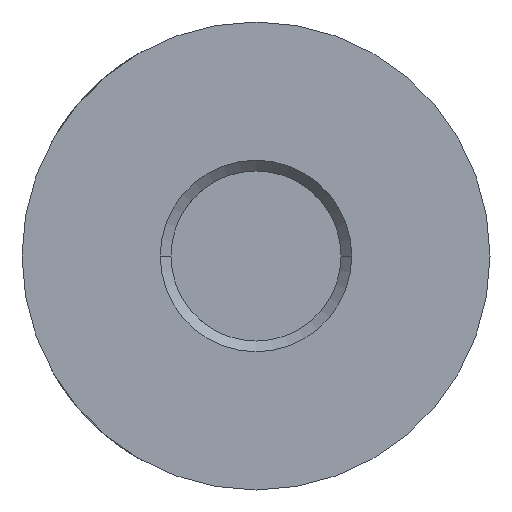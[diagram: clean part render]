
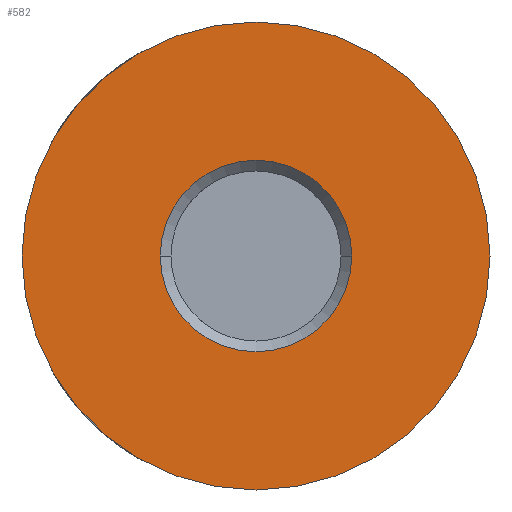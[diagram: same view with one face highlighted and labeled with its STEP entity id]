
A CAD part, front view. The second image highlights one B-rep face of the part: STEP entity #582.
In plain terms, the highlighted planar face has unit normal (0, -1, 0).
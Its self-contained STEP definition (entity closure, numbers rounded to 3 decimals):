
#1=CARTESIAN_POINT('',(0.,0.,0.));
#2=DIRECTION('',(0.,1.,0.));
#3=DIRECTION('',(-1.,0.,0.));
#4=AXIS2_PLACEMENT_3D('',#1,#2,#3);
#6=CARTESIAN_POINT('',(0.,0.,0.));
#7=DIRECTION('',(0.,1.,0.));
#8=DIRECTION('',(1.,0.,0.));
#9=AXIS2_PLACEMENT_3D('',#6,#7,#8);
#110=CARTESIAN_POINT('',(0.,0.,0.));
#111=DIRECTION('',(0.,1.,0.));
#112=DIRECTION('',(-1.,0.,0.));
#113=AXIS2_PLACEMENT_3D('',#110,#111,#112);
#128=CARTESIAN_POINT('',(0.,0.,0.));
#129=DIRECTION('',(0.,1.,0.));
#130=DIRECTION('',(1.,0.,0.));
#131=AXIS2_PLACEMENT_3D('',#128,#129,#130);
#469=CARTESIAN_POINT('',(-11.,0.,0.));
#470=CARTESIAN_POINT('',(11.,0.,0.));
#471=VERTEX_POINT('',#469);
#472=VERTEX_POINT('',#470);
#489=CARTESIAN_POINT('',(4.5,0.,0.));
#490=CARTESIAN_POINT('',(-4.5,0.,0.));
#491=VERTEX_POINT('',#489);
#492=VERTEX_POINT('',#490);
#565=CARTESIAN_POINT('',(0.,0.,0.));
#566=DIRECTION('',(0.,1.,0.));
#567=DIRECTION('',(-1.,0.,0.));
#568=AXIS2_PLACEMENT_3D('',#565,#566,#567);
#569=PLANE('',#568);
#571=ORIENTED_EDGE('',*,*,#570,.T.);
#573=ORIENTED_EDGE('',*,*,#572,.T.);
#574=EDGE_LOOP('',(#571,#573));
#575=FACE_OUTER_BOUND('',#574,.F.);
#577=ORIENTED_EDGE('',*,*,#576,.F.);
#579=ORIENTED_EDGE('',*,*,#578,.F.);
#580=EDGE_LOOP('',(#577,#579));
#581=FACE_BOUND('',#580,.F.);
#582=ADVANCED_FACE('',(#575,#581),#569,.F.);
#5=CIRCLE('',#4,11.);
#10=CIRCLE('',#9,11.);
#114=CIRCLE('',#113,4.5);
#132=CIRCLE('',#131,4.5);
#570=EDGE_CURVE('',#471,#472,#5,.T.);
#572=EDGE_CURVE('',#472,#471,#10,.T.);
#576=EDGE_CURVE('',#492,#491,#114,.T.);
#578=EDGE_CURVE('',#491,#492,#132,.T.);
